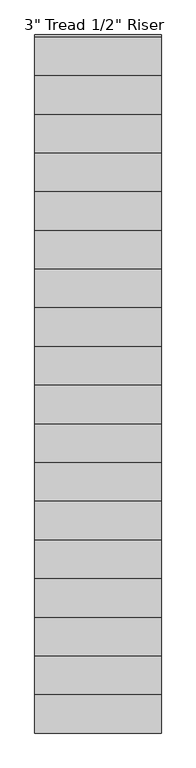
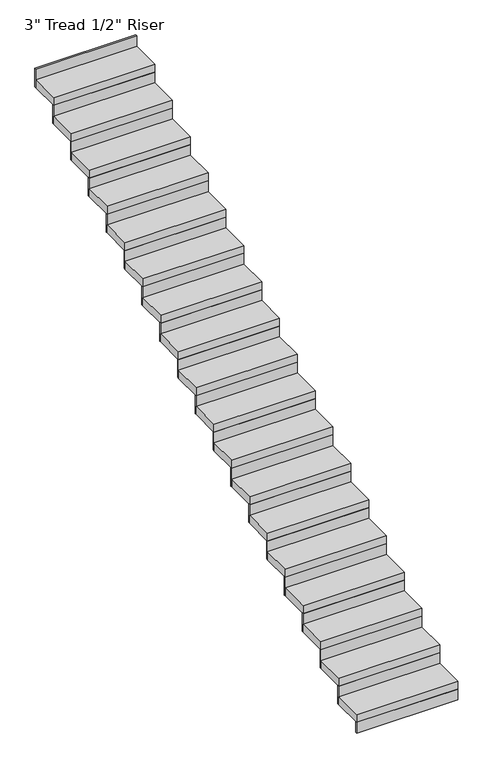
"""IFC4 building model written with IfcOpenShell, lengths in millimetres: stair flight geometry."""

from ifc_helpers import new_model, si_unit, frame, origin, place, context, project, spatial, polyline, outline, extrude, source, transform, mapped, element, save


def stair_flight_477f73bb(model_context):
    return source(origin(), model_context, "Body", "SweptSolid", [
        extrude(outline(polyline([(-11580.4039529, -24182.8763369), (-11580.4039529, -24195.5763369), (-12494.8039529, -24195.5763369), (-12494.8039529, -24182.8763369), (-11580.4039529, -24182.8763369)])), frame((0.0, 0.0, -239.2436536), z_axis=(0.0, 0.0, 1.0), x_axis=(1.0, 0.0, 0.0)), (0.0, 0.0, 1.0), 101.6),
        extrude(outline(polyline([(-12494.8039529, -23916.1763369), (-11580.4039529, -23916.1763369), (-11580.4039529, -24195.5763369), (-12494.8039529, -24195.5763369), (-12494.8039529, -23916.1763369)])), frame((0.0, 0.0, -137.6436536), z_axis=(0.0, 0.0, 1.0), x_axis=(1.0, 0.0, 0.0)), (0.0, 0.0, 1.0), 76.2),
        extrude(outline(polyline([(-11580.4039529, -23903.4763369), (-11580.4039529, -23916.1763369), (-12494.8039529, -23916.1763369), (-12494.8039529, -23903.4763369), (-11580.4039529, -23903.4763369)])), frame((0.0, 0.0, -137.6436536), z_axis=(0.0, 0.0, 1.0), x_axis=(1.0, 0.0, 0.0)), (0.0, 0.0, 1.0), 177.8),
        extrude(outline(polyline([(-12494.8039529, -23636.7763369), (-11580.4039529, -23636.7763369), (-11580.4039529, -23916.1763369), (-12494.8039529, -23916.1763369), (-12494.8039529, -23636.7763369)])), frame((0.0, 0.0, 40.1563464), z_axis=(0.0, 0.0, 1.0), x_axis=(1.0, 0.0, 0.0)), (0.0, 0.0, 1.0), 76.2),
        extrude(outline(polyline([(-11580.4039529, -23624.0763369), (-11580.4039529, -23636.7763369), (-12494.8039529, -23636.7763369), (-12494.8039529, -23624.0763369), (-11580.4039529, -23624.0763369)])), frame((0.0, 0.0, 40.1563464), z_axis=(0.0, 0.0, 1.0), x_axis=(1.0, 0.0, 0.0)), (0.0, 0.0, 1.0), 177.8),
        extrude(outline(polyline([(-12494.8039529, -23357.3763369), (-11580.4039529, -23357.3763369), (-11580.4039529, -23636.7763369), (-12494.8039529, -23636.7763369), (-12494.8039529, -23357.3763369)])), frame((0.0, 0.0, 217.9563464), z_axis=(0.0, 0.0, 1.0), x_axis=(1.0, 0.0, 0.0)), (0.0, 0.0, 1.0), 76.2),
        extrude(outline(polyline([(-11580.4039529, -23344.6763369), (-11580.4039529, -23357.3763369), (-12494.8039529, -23357.3763369), (-12494.8039529, -23344.6763369), (-11580.4039529, -23344.6763369)])), frame((0.0, 0.0, 217.9563464), z_axis=(0.0, 0.0, 1.0), x_axis=(1.0, 0.0, 0.0)), (0.0, 0.0, 1.0), 177.8),
        extrude(outline(polyline([(-12494.8039529, -23077.9763369), (-11580.4039529, -23077.9763369), (-11580.4039529, -23357.3763369), (-12494.8039529, -23357.3763369), (-12494.8039529, -23077.9763369)])), frame((0.0, 0.0, 395.7563464), z_axis=(0.0, 0.0, 1.0), x_axis=(1.0, 0.0, 0.0)), (0.0, 0.0, 1.0), 76.2),
        extrude(outline(polyline([(-11580.4039529, -23065.2763369), (-11580.4039529, -23077.9763369), (-12494.8039529, -23077.9763369), (-12494.8039529, -23065.2763369), (-11580.4039529, -23065.2763369)])), frame((0.0, 0.0, 395.7563464), z_axis=(0.0, 0.0, 1.0), x_axis=(1.0, 0.0, 0.0)), (0.0, 0.0, 1.0), 177.8),
        extrude(outline(polyline([(-12494.8039529, -22798.5763369), (-11580.4039529, -22798.5763369), (-11580.4039529, -23077.9763369), (-12494.8039529, -23077.9763369), (-12494.8039529, -22798.5763369)])), frame((0.0, 0.0, 573.5563464), z_axis=(0.0, 0.0, 1.0), x_axis=(1.0, 0.0, 0.0)), (0.0, 0.0, 1.0), 76.2),
        extrude(outline(polyline([(-11580.4039529, -22785.8763369), (-11580.4039529, -22798.5763369), (-12494.8039529, -22798.5763369), (-12494.8039529, -22785.8763369), (-11580.4039529, -22785.8763369)])), frame((0.0, 0.0, 573.5563464), z_axis=(0.0, 0.0, 1.0), x_axis=(1.0, 0.0, 0.0)), (0.0, 0.0, 1.0), 177.8),
        extrude(outline(polyline([(-12494.8039529, -22519.1763369), (-11580.4039529, -22519.1763369), (-11580.4039529, -22798.5763369), (-12494.8039529, -22798.5763369), (-12494.8039529, -22519.1763369)])), frame((0.0, 0.0, 751.3563464), z_axis=(0.0, 0.0, 1.0), x_axis=(1.0, 0.0, 0.0)), (0.0, 0.0, 1.0), 76.2),
        extrude(outline(polyline([(-11580.4039529, -22506.4763369), (-11580.4039529, -22519.1763369), (-12494.8039529, -22519.1763369), (-12494.8039529, -22506.4763369), (-11580.4039529, -22506.4763369)])), frame((0.0, 0.0, 751.3563464), z_axis=(0.0, 0.0, 1.0), x_axis=(1.0, 0.0, 0.0)), (0.0, 0.0, 1.0), 177.8),
        extrude(outline(polyline([(-12494.8039529, -22239.7763369), (-11580.4039529, -22239.7763369), (-11580.4039529, -22519.1763369), (-12494.8039529, -22519.1763369), (-12494.8039529, -22239.7763369)])), frame((0.0, 0.0, 929.1563464), z_axis=(0.0, 0.0, 1.0), x_axis=(1.0, 0.0, 0.0)), (0.0, 0.0, 1.0), 76.2),
        extrude(outline(polyline([(-11580.4039529, -22227.0763369), (-11580.4039529, -22239.7763369), (-12494.8039529, -22239.7763369), (-12494.8039529, -22227.0763369), (-11580.4039529, -22227.0763369)])), frame((0.0, 0.0, 929.1563464), z_axis=(0.0, 0.0, 1.0), x_axis=(1.0, 0.0, 0.0)), (0.0, 0.0, 1.0), 177.8),
        extrude(outline(polyline([(-12494.8039529, -21960.3763369), (-11580.4039529, -21960.3763369), (-11580.4039529, -22239.7763369), (-12494.8039529, -22239.7763369), (-12494.8039529, -21960.3763369)])), frame((0.0, 0.0, 1106.9563464), z_axis=(0.0, 0.0, 1.0), x_axis=(1.0, 0.0, 0.0)), (0.0, 0.0, 1.0), 76.2),
        extrude(outline(polyline([(-11580.4039529, -21947.6763369), (-11580.4039529, -21960.3763369), (-12494.8039529, -21960.3763369), (-12494.8039529, -21947.6763369), (-11580.4039529, -21947.6763369)])), frame((0.0, 0.0, 1106.9563464), z_axis=(0.0, 0.0, 1.0), x_axis=(1.0, 0.0, 0.0)), (0.0, 0.0, 1.0), 177.8),
        extrude(outline(polyline([(-12494.8039529, -21680.9763369), (-11580.4039529, -21680.9763369), (-11580.4039529, -21960.3763369), (-12494.8039529, -21960.3763369), (-12494.8039529, -21680.9763369)])), frame((0.0, 0.0, 1284.7563464), z_axis=(0.0, 0.0, 1.0), x_axis=(1.0, 0.0, 0.0)), (0.0, 0.0, 1.0), 76.2),
        extrude(outline(polyline([(-11580.4039529, -21668.2763369), (-11580.4039529, -21680.9763369), (-12494.8039529, -21680.9763369), (-12494.8039529, -21668.2763369), (-11580.4039529, -21668.2763369)])), frame((0.0, 0.0, 1284.7563464), z_axis=(0.0, 0.0, 1.0), x_axis=(1.0, 0.0, 0.0)), (0.0, 0.0, 1.0), 177.8),
        extrude(outline(polyline([(-12494.8039529, -21401.5763369), (-11580.4039529, -21401.5763369), (-11580.4039529, -21680.9763369), (-12494.8039529, -21680.9763369), (-12494.8039529, -21401.5763369)])), frame((0.0, 0.0, 1462.5563464), z_axis=(0.0, 0.0, 1.0), x_axis=(1.0, 0.0, 0.0)), (0.0, 0.0, 1.0), 76.2),
        extrude(outline(polyline([(-11580.4039529, -21388.8763369), (-11580.4039529, -21401.5763369), (-12494.8039529, -21401.5763369), (-12494.8039529, -21388.8763369), (-11580.4039529, -21388.8763369)])), frame((0.0, 0.0, 1462.5563464), z_axis=(0.0, 0.0, 1.0), x_axis=(1.0, 0.0, 0.0)), (0.0, 0.0, 1.0), 177.8),
        extrude(outline(polyline([(-12494.8039529, -21122.1763369), (-11580.4039529, -21122.1763369), (-11580.4039529, -21401.5763369), (-12494.8039529, -21401.5763369), (-12494.8039529, -21122.1763369)])), frame((0.0, 0.0, 1640.3563464), z_axis=(0.0, 0.0, 1.0), x_axis=(1.0, 0.0, 0.0)), (0.0, 0.0, 1.0), 76.2),
        extrude(outline(polyline([(-11580.4039529, -21109.4763369), (-11580.4039529, -21122.1763369), (-12494.8039529, -21122.1763369), (-12494.8039529, -21109.4763369), (-11580.4039529, -21109.4763369)])), frame((0.0, 0.0, 1640.3563464), z_axis=(0.0, 0.0, 1.0), x_axis=(1.0, 0.0, 0.0)), (0.0, 0.0, 1.0), 177.8),
        extrude(outline(polyline([(-12494.8039529, -20842.7763369), (-11580.4039529, -20842.7763369), (-11580.4039529, -21122.1763369), (-12494.8039529, -21122.1763369), (-12494.8039529, -20842.7763369)])), frame((0.0, 0.0, 1818.1563464), z_axis=(0.0, 0.0, 1.0), x_axis=(1.0, 0.0, 0.0)), (0.0, 0.0, 1.0), 76.2),
        extrude(outline(polyline([(-11580.4039529, -20830.0763369), (-11580.4039529, -20842.7763369), (-12494.8039529, -20842.7763369), (-12494.8039529, -20830.0763369), (-11580.4039529, -20830.0763369)])), frame((0.0, 0.0, 1818.1563464), z_axis=(0.0, 0.0, 1.0), x_axis=(1.0, 0.0, 0.0)), (0.0, 0.0, 1.0), 177.8),
        extrude(outline(polyline([(-12494.8039529, -20563.3763369), (-11580.4039529, -20563.3763369), (-11580.4039529, -20842.7763369), (-12494.8039529, -20842.7763369), (-12494.8039529, -20563.3763369)])), frame((0.0, 0.0, 1995.9563464), z_axis=(0.0, 0.0, 1.0), x_axis=(1.0, 0.0, 0.0)), (0.0, 0.0, 1.0), 76.2),
        extrude(outline(polyline([(-11580.4039529, -20550.6763369), (-11580.4039529, -20563.3763369), (-12494.8039529, -20563.3763369), (-12494.8039529, -20550.6763369), (-11580.4039529, -20550.6763369)])), frame((0.0, 0.0, 1995.9563464), z_axis=(0.0, 0.0, 1.0), x_axis=(1.0, 0.0, 0.0)), (0.0, 0.0, 1.0), 177.8),
        extrude(outline(polyline([(-12494.8039529, -20283.9763369), (-11580.4039529, -20283.9763369), (-11580.4039529, -20563.3763369), (-12494.8039529, -20563.3763369), (-12494.8039529, -20283.9763369)])), frame((0.0, 0.0, 2173.7563464), z_axis=(0.0, 0.0, 1.0), x_axis=(1.0, 0.0, 0.0)), (0.0, 0.0, 1.0), 76.2),
        extrude(outline(polyline([(-11580.4039529, -20271.2763369), (-11580.4039529, -20283.9763369), (-12494.8039529, -20283.9763369), (-12494.8039529, -20271.2763369), (-11580.4039529, -20271.2763369)])), frame((0.0, 0.0, 2173.7563464), z_axis=(0.0, 0.0, 1.0), x_axis=(1.0, 0.0, 0.0)), (0.0, 0.0, 1.0), 177.8),
        extrude(outline(polyline([(-12494.8039529, -20004.5763369), (-11580.4039529, -20004.5763369), (-11580.4039529, -20283.9763369), (-12494.8039529, -20283.9763369), (-12494.8039529, -20004.5763369)])), frame((0.0, 0.0, 2351.5563464), z_axis=(0.0, 0.0, 1.0), x_axis=(1.0, 0.0, 0.0)), (0.0, 0.0, 1.0), 76.2),
        extrude(outline(polyline([(-11580.4039529, -19991.8763369), (-11580.4039529, -20004.5763369), (-12494.8039529, -20004.5763369), (-12494.8039529, -19991.8763369), (-11580.4039529, -19991.8763369)])), frame((0.0, 0.0, 2351.5563464), z_axis=(0.0, 0.0, 1.0), x_axis=(1.0, 0.0, 0.0)), (0.0, 0.0, 1.0), 177.8),
        extrude(outline(polyline([(-12494.8039529, -19725.1763369), (-11580.4039529, -19725.1763369), (-11580.4039529, -20004.5763369), (-12494.8039529, -20004.5763369), (-12494.8039529, -19725.1763369)])), frame((0.0, 0.0, 2529.3563464), z_axis=(0.0, 0.0, 1.0), x_axis=(1.0, 0.0, 0.0)), (0.0, 0.0, 1.0), 76.2),
        extrude(outline(polyline([(-11580.4039529, -19712.4763369), (-11580.4039529, -19725.1763369), (-12494.8039529, -19725.1763369), (-12494.8039529, -19712.4763369), (-11580.4039529, -19712.4763369)])), frame((0.0, 0.0, 2529.3563464), z_axis=(0.0, 0.0, 1.0), x_axis=(1.0, 0.0, 0.0)), (0.0, 0.0, 1.0), 177.8),
        extrude(outline(polyline([(-12494.8039529, -19445.7763369), (-11580.4039529, -19445.7763369), (-11580.4039529, -19725.1763369), (-12494.8039529, -19725.1763369), (-12494.8039529, -19445.7763369)])), frame((0.0, 0.0, 2707.1563464), z_axis=(0.0, 0.0, 1.0), x_axis=(1.0, 0.0, 0.0)), (0.0, 0.0, 1.0), 76.2),
        extrude(outline(polyline([(-11580.4039529, -19433.0763369), (-11580.4039529, -19445.7763369), (-12494.8039529, -19445.7763369), (-12494.8039529, -19433.0763369), (-11580.4039529, -19433.0763369)])), frame((0.0, 0.0, 2707.1563464), z_axis=(0.0, 0.0, 1.0), x_axis=(1.0, 0.0, 0.0)), (0.0, 0.0, 1.0), 177.8),
        extrude(outline(polyline([(-11580.4039529, -19153.6763369), (-11580.4039529, -19166.3763369), (-12494.8039529, -19166.3763369), (-12494.8039529, -19153.6763369), (-11580.4039529, -19153.6763369)])), frame((0.0, 0.0, 2884.9563464), z_axis=(0.0, 0.0, 1.0), x_axis=(1.0, 0.0, 0.0)), (0.0, 0.0, 1.0), 177.8),
        extrude(outline(polyline([(-12494.8039529, -19166.3763369), (-11580.4039529, -19166.3763369), (-11580.4039529, -19445.7763369), (-12494.8039529, -19445.7763369), (-12494.8039529, -19166.3763369)])), frame((0.0, 0.0, 2884.9563464), z_axis=(0.0, 0.0, 1.0), x_axis=(1.0, 0.0, 0.0)), (0.0, 0.0, 1.0), 76.2),
    ])


if __name__ == "__main__":
    model = new_model("IFC4")
    model_context = context("Model", 3, world=origin())
    ifc_project = project(units=[si_unit("LENGTHUNIT", "METRE", prefix="MILLI")], contexts=[model_context])
    site = spatial("IfcSite", under=ifc_project)
    building = spatial("IfcBuilding", under=site)
    placement = place(None, origin())
    stair_flight_shape = stair_flight_477f73bb(model_context)
    element("IfcStairFlight", 1, ObjectType="3\" Tread 1/2\" Riser", at=placement, inside=building, context=model_context, shape_type="MappedRepresentation", body=[
        mapped(stair_flight_shape, transform((0.0, 0.0, 0.0), x_axis=(1.0, 0.0, 0.0), y_axis=(0.0, 1.0, 0.0), z_axis=(0.0, 0.0, 1.0))),
    ])
    save(model, "model.ifc")
